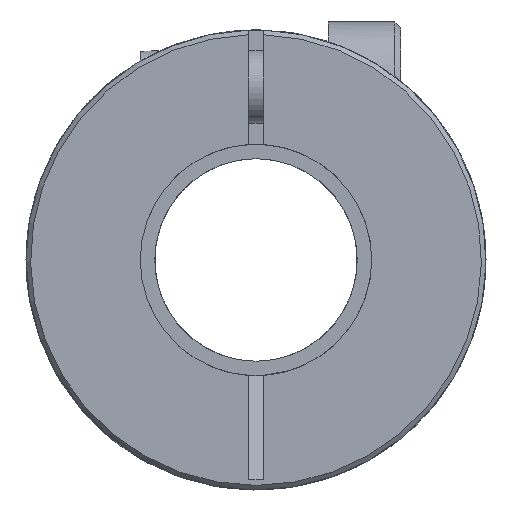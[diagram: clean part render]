
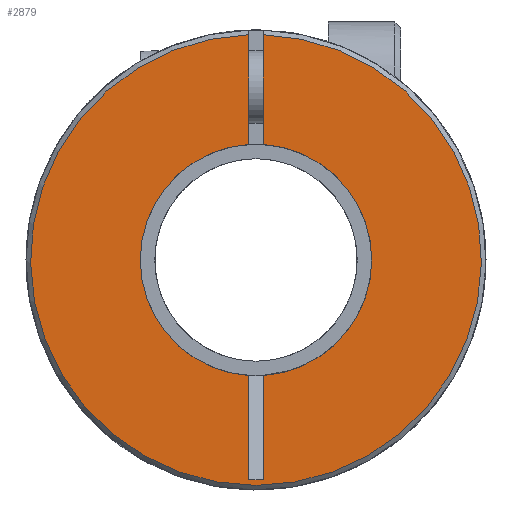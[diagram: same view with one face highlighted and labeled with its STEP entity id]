
A CAD part, front view. The second image highlights one B-rep face of the part: STEP entity #2879.
In plain terms, the highlighted planar face has unit normal (0, -1, 0).
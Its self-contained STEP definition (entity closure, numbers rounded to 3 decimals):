
#1=DIRECTION('',(0.,0.,-1.));
#2=VECTOR('',#1,3.794);
#3=CARTESIAN_POINT('',(-0.25,-12.7,7.786));
#4=LINE('',#3,#2);
#5=CARTESIAN_POINT('',(0.,-12.7,0.));
#6=DIRECTION('',(0.,1.,0.));
#7=DIRECTION('',(-1.,0.,0.));
#8=AXIS2_PLACEMENT_3D('',#5,#6,#7);
#10=CARTESIAN_POINT('',(0.,-12.7,0.));
#11=DIRECTION('',(0.,1.,0.));
#12=DIRECTION('',(-0.063,0.,-0.998));
#13=AXIS2_PLACEMENT_3D('',#10,#11,#12);
#15=DIRECTION('',(0.,0.,-1.));
#16=VECTOR('',#15,3.608);
#17=CARTESIAN_POINT('',(-0.25,-12.7,-3.992));
#18=LINE('',#17,#16);
#19=DIRECTION('',(1.,0.,0.));
#20=VECTOR('',#19,0.5);
#21=CARTESIAN_POINT('',(-0.25,-12.7,-7.6));
#22=LINE('',#21,#20);
#23=DIRECTION('',(0.,0.,-1.));
#24=VECTOR('',#23,3.608);
#25=CARTESIAN_POINT('',(0.25,-12.7,-3.992));
#26=LINE('',#25,#24);
#27=DIRECTION('',(0.,0.,-1.));
#28=VECTOR('',#27,3.794);
#29=CARTESIAN_POINT('',(0.25,-12.7,7.786));
#30=LINE('',#29,#28);
#54=CARTESIAN_POINT('',(0.,-12.7,0.));
#55=DIRECTION('',(0.,1.,0.));
#56=DIRECTION('',(0.063,0.,0.998));
#57=AXIS2_PLACEMENT_3D('',#54,#55,#56);
#2381=CARTESIAN_POINT('',(0.,-12.7,0.));
#2382=DIRECTION('',(0.,-1.,0.));
#2383=DIRECTION('',(-0.032,0.,0.999));
#2384=AXIS2_PLACEMENT_3D('',#2381,#2382,#2383);
#2535=CARTESIAN_POINT('',(-4.,-12.7,0.));
#2536=VERTEX_POINT('',#2535);
#2618=CARTESIAN_POINT('',(-0.25,-12.7,-7.6));
#2620=VERTEX_POINT('',#2618);
#2622=CARTESIAN_POINT('',(0.25,-12.7,-7.6));
#2624=VERTEX_POINT('',#2622);
#2673=CARTESIAN_POINT('',(-0.25,-12.7,7.786));
#2674=CARTESIAN_POINT('',(-0.25,-12.7,3.992));
#2675=VERTEX_POINT('',#2673);
#2676=VERTEX_POINT('',#2674);
#2677=CARTESIAN_POINT('',(-0.25,-12.7,-3.992));
#2678=VERTEX_POINT('',#2677);
#2679=CARTESIAN_POINT('',(0.25,-12.7,7.786));
#2680=CARTESIAN_POINT('',(0.25,-12.7,3.992));
#2681=VERTEX_POINT('',#2679);
#2682=VERTEX_POINT('',#2680);
#2683=CARTESIAN_POINT('',(0.25,-12.7,-3.992));
#2684=VERTEX_POINT('',#2683);
#2854=CARTESIAN_POINT('',(0.,-12.7,0.));
#2855=DIRECTION('',(0.,1.,0.));
#2856=DIRECTION('',(1.,0.,0.));
#2857=AXIS2_PLACEMENT_3D('',#2854,#2855,#2856);
#2858=PLANE('',#2857);
#2860=ORIENTED_EDGE('',*,*,#2859,.T.);
#2862=ORIENTED_EDGE('',*,*,#2861,.F.);
#2864=ORIENTED_EDGE('',*,*,#2863,.F.);
#2866=ORIENTED_EDGE('',*,*,#2865,.T.);
#2868=ORIENTED_EDGE('',*,*,#2867,.T.);
#2870=ORIENTED_EDGE('',*,*,#2869,.F.);
#2872=ORIENTED_EDGE('',*,*,#2871,.F.);
#2874=ORIENTED_EDGE('',*,*,#2873,.F.);
#2876=ORIENTED_EDGE('',*,*,#2875,.F.);
#2877=EDGE_LOOP('',(#2860,#2862,#2864,#2866,#2868,#2870,#2872,#2874,#2876));
#2878=FACE_OUTER_BOUND('',#2877,.F.);
#2879=ADVANCED_FACE('',(#2878),#2858,.F.);
#9=CIRCLE('',#8,4.);
#14=CIRCLE('',#13,4.);
#58=CIRCLE('',#57,4.);
#2385=CIRCLE('',#2384,7.79);
#2859=EDGE_CURVE('',#2675,#2676,#4,.T.);
#2861=EDGE_CURVE('',#2536,#2676,#9,.T.);
#2863=EDGE_CURVE('',#2678,#2536,#14,.T.);
#2865=EDGE_CURVE('',#2678,#2620,#18,.T.);
#2867=EDGE_CURVE('',#2620,#2624,#22,.T.);
#2869=EDGE_CURVE('',#2684,#2624,#26,.T.);
#2871=EDGE_CURVE('',#2682,#2684,#58,.T.);
#2873=EDGE_CURVE('',#2681,#2682,#30,.T.);
#2875=EDGE_CURVE('',#2675,#2681,#2385,.T.);
